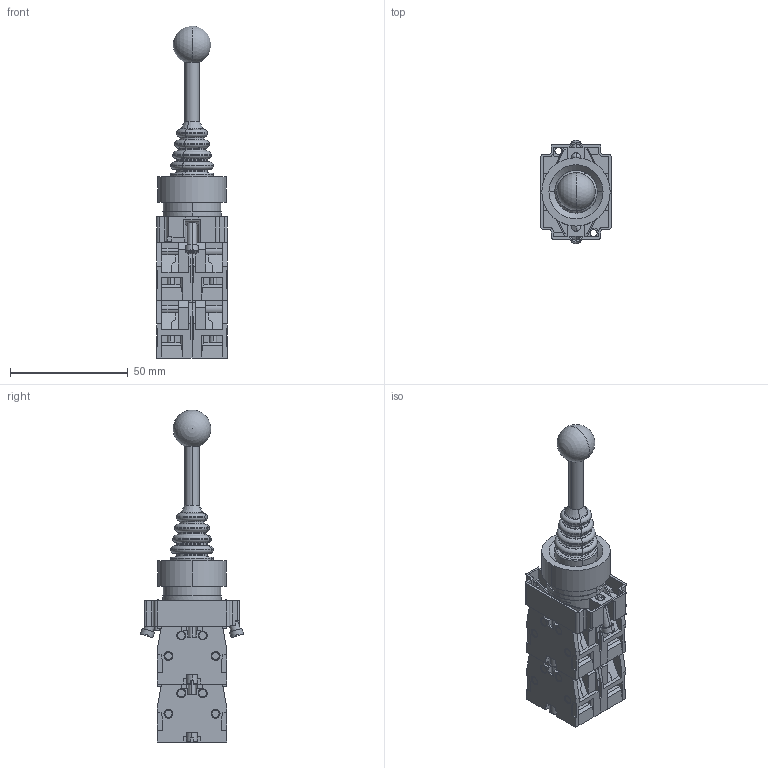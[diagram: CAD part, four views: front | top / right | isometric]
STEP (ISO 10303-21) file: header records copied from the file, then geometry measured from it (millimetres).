
FILE_DESCRIPTION (( 'STEP AP214' ), '1' );
FILE_NAME ('3D 沓麧錪 MTB2-PA14.STEP', '2017-04-25T08:56:22', ( 'adm' ), ( 'MICROSOFT' ), 'SwSTEP 2.0', 'SolidWorks 2011', '' );
FILE_SCHEMA (( 'AUTOMOTIVE_DESIGN' ));
Length unit declared in the file: millimetre
Products named in the file (6): Ðó÷êà_óïðàâëåíèÿ; 婰錪襝; 扻錪犩-臝鍎; MTB2-BE áëîê-êîíòàêò; Îñíîâàíèå ìåòàëë; 3D 沓麧錪 MTB2-PA14
Assembly tree (8 placements, depth 2):
  3D 沓麧錪 MTB2-PA14
    Îñíîâàíèå ìåòàëë
    MTB2-BE áëîê-êîíòàêò  x4
    扻錪犩-臝鍎
    婰錪襝
    Ðó÷êà_óïðàâëåíèÿ
Bounding box: 30.2 x 43.81 x 140.9 mm (x, y, z)
Volume: 50650 mm3; surface area: 38523.5 mm2
Topology: 12 solids, 12 shells, 1880 faces, 4918 edges, 3190 vertices
Faces by surface type: plane 1256, cylinder 464, torus 102, cone 56, sphere 2
Entity records: 25224 total; most frequent: CARTESIAN_POINT 4548, DIRECTION 4158, ORIENTED_EDGE 4106, EDGE_CURVE 2053, AXIS2_PLACEMENT_3D 1386, LINE 1386, VECTOR 1386, VERTEX_POINT 1327
